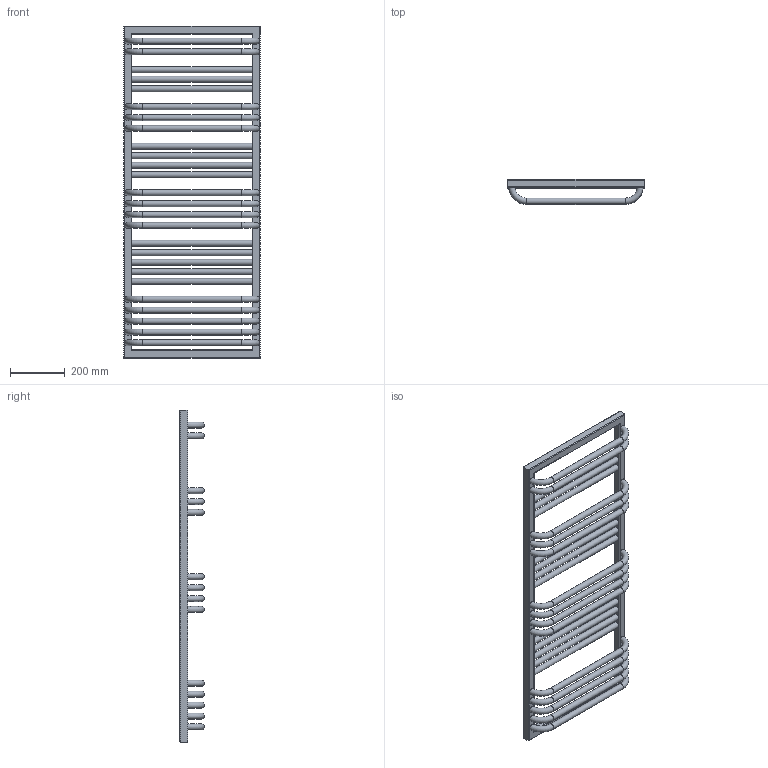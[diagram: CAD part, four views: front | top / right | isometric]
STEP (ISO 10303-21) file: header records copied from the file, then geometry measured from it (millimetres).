
FILE_DESCRIPTION((''),'2;1');
FILE_NAME('Z:\R\G\P\RGPH18 - Grzejnik POC\Work\Inventor\POC 1-6-8 v2.0\Marketing\AutoCad 3D\POC-1215-500-1-6-8.stp','2012-07-12T14:39:29',('KurKa'),(''),'Autodesk Inventor 2012','Autodesk Inventor 2012','');
FILE_SCHEMA(('AUTOMOTIVE_DESIGN { 1 0 10303 214 1 1 1 1 }'));
Length unit declared in the file: millimetre
Products named in the file (1): POC-1215-500-1-6-8
Bounding box: 500 x 90 x 1215 mm (x, y, z)
Volume: 7728874.9 mm3; surface area: 1231458.6 mm2
Topology: 1 solids, 1 shells, 89 faces, 233 edges, 149 vertices
Faces by surface type: cylinder 45, torus 31, plane 13
Full cylindrical faces by diameter (mm): 18.631 x3, 22 x26
Entity records: 4078 total; most frequent: CARTESIAN_POINT 2176, DIRECTION 374, ORIENTED_EDGE 290, EDGE_LOOP 206, AXIS2_PLACEMENT_3D 167, EDGE_CURVE 145, VERTEX_POINT 121, FACE_BOUND 117
